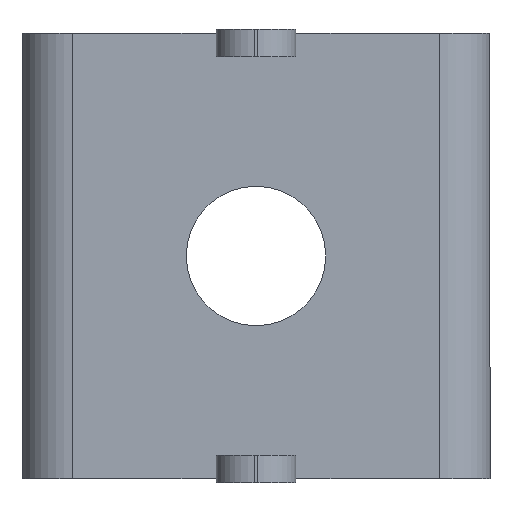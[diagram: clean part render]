
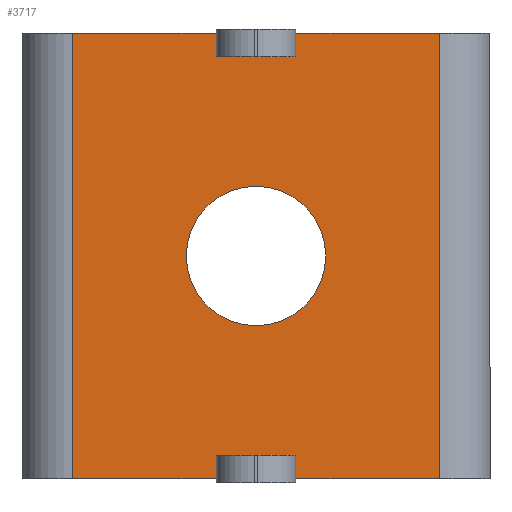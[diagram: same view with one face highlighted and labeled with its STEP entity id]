
A CAD part, front view. The second image highlights one B-rep face of the part: STEP entity #3717.
In plain terms, the highlighted planar face has unit normal (0, -1, 0).
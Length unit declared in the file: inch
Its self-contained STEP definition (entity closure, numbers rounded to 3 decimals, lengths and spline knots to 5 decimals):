
#226=FACE_BOUND('',#599,.T.);
#265=PLANE('',#3993);
#395=FACE_OUTER_BOUND('',#598,.T.);
#598=EDGE_LOOP('',(#2800,#2801,#2802,#2803,#2804,#2805,#2806,#2807,#2808,
#2809,#2810,#2811));
#599=EDGE_LOOP('',(#2812));
#783=LINE('',#4903,#1155);
#818=LINE('',#5013,#1190);
#824=LINE('',#5032,#1196);
#833=LINE('',#5059,#1205);
#860=LINE('',#5137,#1232);
#874=LINE('',#5170,#1246);
#879=LINE('',#5183,#1251);
#880=LINE('',#5186,#1252);
#881=LINE('',#5187,#1253);
#882=LINE('',#5188,#1254);
#883=LINE('',#5190,#1255);
#884=LINE('',#5191,#1256);
#1155=VECTOR('',#4130,0.3937);
#1190=VECTOR('',#4231,0.3937);
#1196=VECTOR('',#4247,0.3937);
#1205=VECTOR('',#4270,0.3937);
#1232=VECTOR('',#4355,0.3937);
#1246=VECTOR('',#4389,0.3937);
#1251=VECTOR('',#4408,0.3937);
#1252=VECTOR('',#4411,0.3937);
#1253=VECTOR('',#4412,0.3937);
#1254=VECTOR('',#4413,0.3937);
#1255=VECTOR('',#4414,0.3937);
#1256=VECTOR('',#4415,0.3937);
#1508=CIRCLE('',#3891,0.0689);
#1568=VERTEX_POINT('',#4851);
#1588=VERTEX_POINT('',#4900);
#1589=VERTEX_POINT('',#4902);
#1630=VERTEX_POINT('',#5010);
#1631=VERTEX_POINT('',#5012);
#1638=VERTEX_POINT('',#5029);
#1639=VERTEX_POINT('',#5031);
#1649=VERTEX_POINT('',#5056);
#1650=VERTEX_POINT('',#5058);
#1672=VERTEX_POINT('',#5135);
#1681=VERTEX_POINT('',#5169);
#1683=VERTEX_POINT('',#5185);
#1684=VERTEX_POINT('',#5189);
#1942=EDGE_CURVE('',#1568,#1568,#1508,.T.);
#1967=EDGE_CURVE('',#1588,#1589,#783,.T.);
#2022=EDGE_CURVE('',#1630,#1631,#818,.T.);
#2031=EDGE_CURVE('',#1639,#1638,#824,.T.);
#2044=EDGE_CURVE('',#1650,#1649,#833,.T.);
#2085=EDGE_CURVE('',#1672,#1649,#860,.T.);
#2104=EDGE_CURVE('',#1639,#1681,#874,.T.);
#2111=EDGE_CURVE('',#1631,#1588,#879,.T.);
#2112=EDGE_CURVE('',#1630,#1683,#880,.T.);
#2113=EDGE_CURVE('',#1683,#1650,#881,.T.);
#2114=EDGE_CURVE('',#1681,#1672,#882,.T.);
#2115=EDGE_CURVE('',#1638,#1684,#883,.T.);
#2116=EDGE_CURVE('',#1684,#1589,#884,.T.);
#2800=ORIENTED_EDGE('',*,*,#2111,.F.);
#2801=ORIENTED_EDGE('',*,*,#2022,.F.);
#2802=ORIENTED_EDGE('',*,*,#2112,.T.);
#2803=ORIENTED_EDGE('',*,*,#2113,.T.);
#2804=ORIENTED_EDGE('',*,*,#2044,.T.);
#2805=ORIENTED_EDGE('',*,*,#2085,.F.);
#2806=ORIENTED_EDGE('',*,*,#2114,.F.);
#2807=ORIENTED_EDGE('',*,*,#2104,.F.);
#2808=ORIENTED_EDGE('',*,*,#2031,.T.);
#2809=ORIENTED_EDGE('',*,*,#2115,.T.);
#2810=ORIENTED_EDGE('',*,*,#2116,.T.);
#2811=ORIENTED_EDGE('',*,*,#1967,.F.);
#2812=ORIENTED_EDGE('',*,*,#1942,.T.);
#3717=ADVANCED_FACE('',(#395,#226),#265,.T.);
#3891=AXIS2_PLACEMENT_3D('',#4852,#4089,#4090);
#3993=AXIS2_PLACEMENT_3D('',#5184,#4409,#4410);
#4089=DIRECTION('center_axis',(0.,1.,0.));
#4090=DIRECTION('ref_axis',(-1.,0.,0.));
#4130=DIRECTION('',(1.,0.,0.));
#4231=DIRECTION('',(-1.,0.,0.));
#4247=DIRECTION('',(0.,0.,-1.));
#4270=DIRECTION('',(0.,0.,-1.));
#4355=DIRECTION('',(-1.,0.,0.));
#4389=DIRECTION('',(1.,0.,0.));
#4408=DIRECTION('',(0.,0.,1.));
#4409=DIRECTION('center_axis',(0.,-1.,0.));
#4410=DIRECTION('ref_axis',(1.,0.,0.));
#4411=DIRECTION('',(0.,0.,1.));
#4412=DIRECTION('',(1.,0.,0.));
#4413=DIRECTION('',(0.,0.,-1.));
#4414=DIRECTION('',(-1.,0.,0.));
#4415=DIRECTION('',(0.,0.,1.));
#4851=CARTESIAN_POINT('',(0.0689,-0.20613,0.));
#4852=CARTESIAN_POINT('Origin',(0.,-0.20613,
0.));
#4900=CARTESIAN_POINT('',(-0.18156,-0.20613,0.22047));
#4902=CARTESIAN_POINT('',(-0.03937,-0.20613,0.22047));
#4903=CARTESIAN_POINT('',(-0.24606,-0.20613,0.22047));
#5010=CARTESIAN_POINT('',(-0.03937,-0.20613,-0.22047));
#5012=CARTESIAN_POINT('',(-0.18156,-0.20613,-0.22047));
#5013=CARTESIAN_POINT('',(-0.24606,-0.20613,-0.22047));
#5029=CARTESIAN_POINT('',(0.03937,-0.20613,0.19685));
#5031=CARTESIAN_POINT('',(0.03937,-0.20613,0.22047));
#5032=CARTESIAN_POINT('',(0.03937,-0.20613,0.10531));
#5056=CARTESIAN_POINT('',(0.03937,-0.20613,-0.22047));
#5058=CARTESIAN_POINT('',(0.03937,-0.20613,-0.19685));
#5059=CARTESIAN_POINT('',(0.03937,-0.20613,-0.10531));
#5135=CARTESIAN_POINT('',(0.18156,-0.20613,-0.22047));
#5137=CARTESIAN_POINT('',(-0.24606,-0.20613,-0.22047));
#5169=CARTESIAN_POINT('',(0.18156,-0.20613,0.22047));
#5170=CARTESIAN_POINT('',(-0.24606,-0.20613,0.22047));
#5183=CARTESIAN_POINT('',(-0.18156,-0.20613,0.));
#5184=CARTESIAN_POINT('Origin',(-0.24606,-0.20613,0.));
#5185=CARTESIAN_POINT('',(-0.03937,-0.20613,-0.19685));
#5186=CARTESIAN_POINT('',(-0.03937,-0.20613,-0.10531));
#5187=CARTESIAN_POINT('',(-0.12303,-0.20613,-0.19685));
#5188=CARTESIAN_POINT('',(0.18156,-0.20613,0.));
#5189=CARTESIAN_POINT('',(-0.03937,-0.20613,0.19685));
#5190=CARTESIAN_POINT('',(-0.12303,-0.20613,0.19685));
#5191=CARTESIAN_POINT('',(-0.03937,-0.20613,0.10531));
